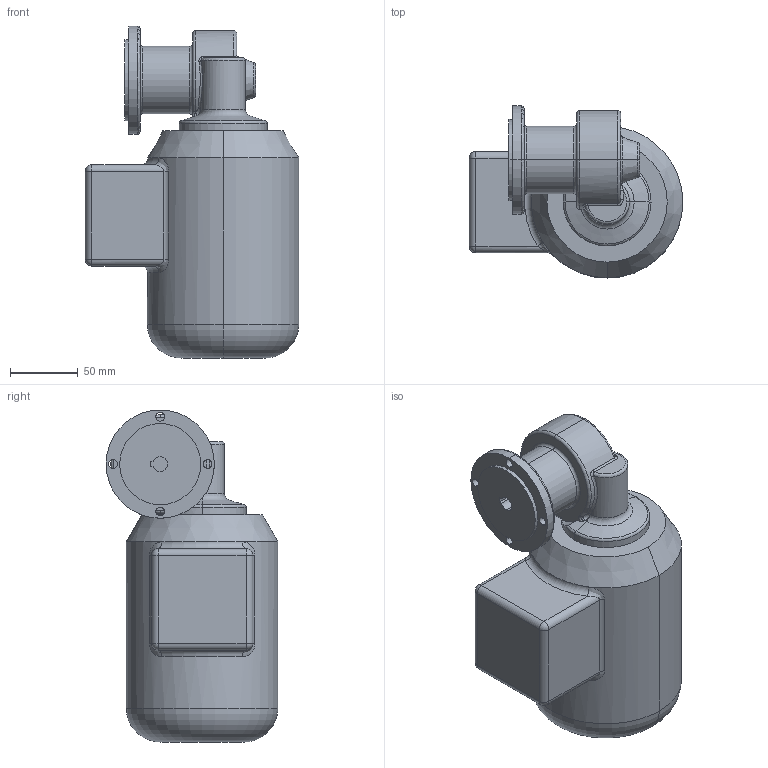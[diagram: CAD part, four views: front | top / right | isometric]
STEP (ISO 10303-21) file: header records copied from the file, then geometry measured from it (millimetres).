
FILE_DESCRIPTION (( 'STEP AP203' ), '1' );
FILE_NAME ('SN5FLH-90,120W-D.STEP', '2010-08-23T10:35:58', ( ' ' ), ( ' ' ), 'SwSTEP 2.0', 'SolidWorks 2010', '' );
FILE_SCHEMA (( 'CONFIG_CONTROL_DESIGN' ));
Length unit declared in the file: millimetre
Products named in the file (3): SN5FLH; BG56of; SN5FLH-90,120W-D
Assembly tree (2 placements, depth 2):
  SN5FLH-90,120W-D
    SN5FLH
    BG56of
Bounding box: 158 x 127 x 245.5 mm (x, y, z)
Volume: 2171376.4 mm3; surface area: 124608.6 mm2
Topology: 2 solids, 2 shells, 112 faces, 268 edges, 156 vertices
Faces by surface type: cylinder 39, torus 28, plane 19, bspline 15, cone 7, sphere 4
Entity records: 4715 total; most frequent: CARTESIAN_POINT 1870, DIRECTION 569, ORIENTED_EDGE 528, EDGE_CURVE 264, AXIS2_PLACEMENT_3D 251, VERTEX_POINT 156, CIRCLE 149, EDGE_LOOP 120
